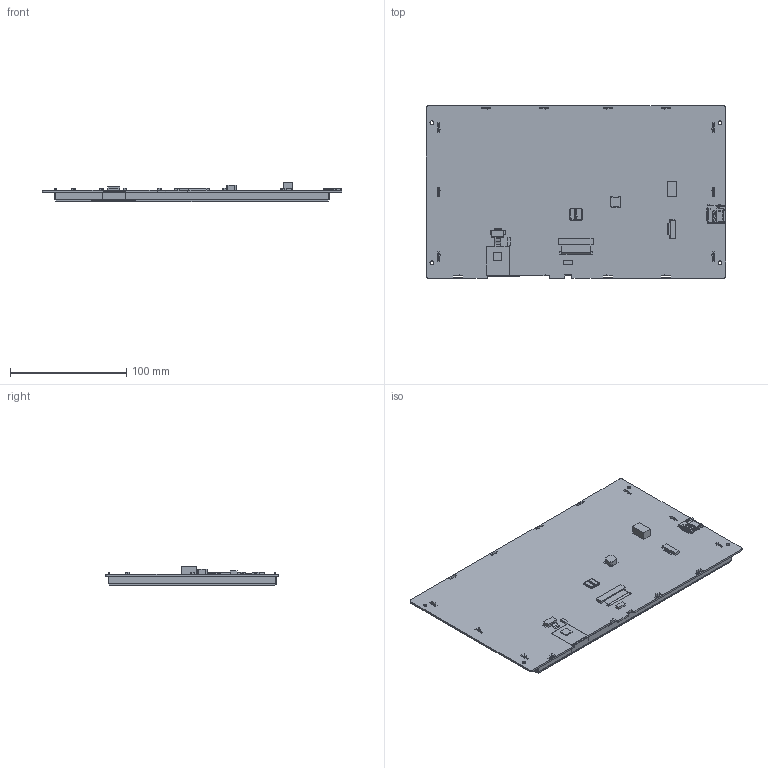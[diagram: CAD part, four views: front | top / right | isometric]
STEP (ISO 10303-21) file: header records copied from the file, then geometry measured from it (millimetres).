
FILE_DESCRIPTION(/* description */ (''),/* implementation_level */ '2;1');
FILE_NAME(/* name */ 'VTc101C34C.stp',/* time_stamp */ '2024-04-19T10:17:29+08:00',/* author */ (''),/* organization */ (''),/* preprocessor_version */ 'ST-DEVELOPER v16',/* originating_system */ 'SIEMENS PLM Software NX 10.0',/* authorisation */ '');
FILE_SCHEMA (('AP203_CONFIGURATION_CONTROLLED_3D_DESIGN_OF_MECHANICAL_PARTS_AND_ASSEMBLIES_MIM_LF { 1 0 10303 403 2 1 2}'));
Products named in the file (1): VTc101C34C
Bounding box: 257.8 x 148.1 x 16.71 mm (x, y, z)
Volume: 127993.1 mm3; surface area: 299674.6 mm2
Topology: 23 solids, 23 shells, 2532 faces, 7282 edges, 4786 vertices
Faces by surface type: plane 2038, cylinder 483, bspline 7, extrusion 3, cone 1
Full cylindrical faces by diameter (mm): 3.2 x4
Entity records: 84949 total; most frequent: CARTESIAN_POINT 15544, ORIENTED_EDGE 14556, DIRECTION 13081, EDGE_CURVE 7278, VECTOR 6159, LINE 6156, VERTEX_POINT 4786, AXIS2_PLACEMENT_3D 3461
